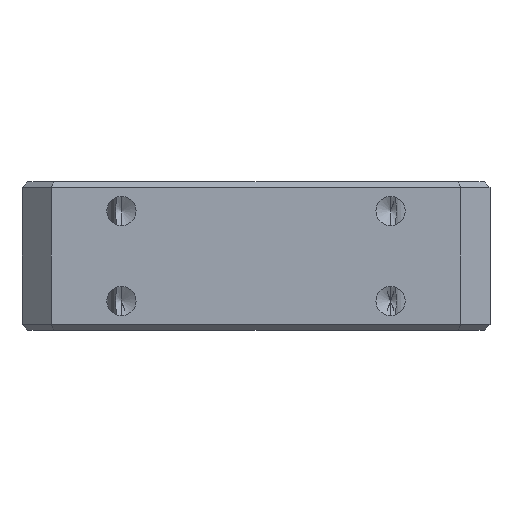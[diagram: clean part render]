
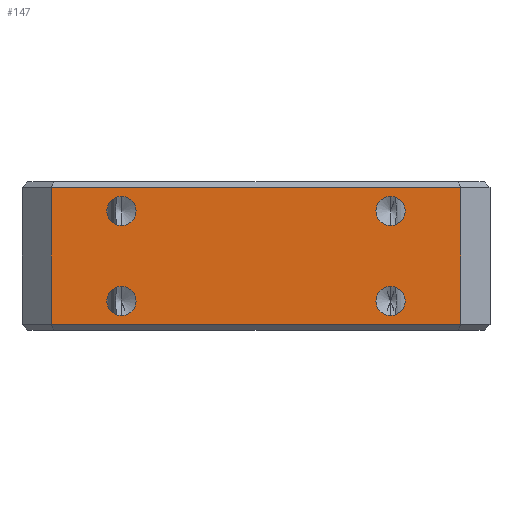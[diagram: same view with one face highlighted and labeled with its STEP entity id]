
A CAD part, left-side view. The second image highlights one B-rep face of the part: STEP entity #147.
In plain terms, the highlighted planar face has unit normal (-1, 0, 0).
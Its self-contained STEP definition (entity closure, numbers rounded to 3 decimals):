
#12 = VERTEX_POINT ( 'NONE', #664 ) ;
#19 = PLANE ( 'NONE',  #3012 ) ;
#31 = ORIENTED_EDGE ( 'NONE', *, *, #1681, .T. ) ;
#39 = AXIS2_PLACEMENT_3D ( 'NONE', #2137, #972, #2451 ) ;
#74 = ORIENTED_EDGE ( 'NONE', *, *, #797, .F. ) ;
#83 = CIRCLE ( 'NONE', #208, 1.25 ) ;
#85 = CARTESIAN_POINT ( 'NONE',  ( -20., -11.5, 10.2 ) ) ;
#96 = DIRECTION ( 'NONE',  ( -1., 0., 0. ) ) ;
#110 = CARTESIAN_POINT ( 'NONE',  ( -20., -17.5, 0.5 ) ) ;
#116 = CIRCLE ( 'NONE', #280, 1.25 ) ;
#127 = CIRCLE ( 'NONE', #39, 1.25 ) ;
#147 = ADVANCED_FACE ( 'NONE', ( #2924, #738, #499, #1230, #2208 ), #19, .F. ) ;
#152 = CARTESIAN_POINT ( 'NONE',  ( -20., 11.5, 10.2 ) ) ;
#167 = VERTEX_POINT ( 'NONE', #2750 ) ;
#180 = ORIENTED_EDGE ( 'NONE', *, *, #362, .F. ) ;
#208 = AXIS2_PLACEMENT_3D ( 'NONE', #152, #96, #1568 ) ;
#245 = CARTESIAN_POINT ( 'NONE',  ( -20., -17.5, 12.7 ) ) ;
#261 = LINE ( 'NONE', #2913, #890 ) ;
#265 = VECTOR ( 'NONE', #1158, 1000. ) ;
#280 = AXIS2_PLACEMENT_3D ( 'NONE', #2861, #665, #2623 ) ;
#308 = CARTESIAN_POINT ( 'NONE',  ( -20., 11.5, 8.95 ) ) ;
#344 = LINE ( 'NONE', #855, #1750 ) ;
#346 = EDGE_CURVE ( 'NONE', #167, #682, #522, .T. ) ;
#362 = EDGE_CURVE ( 'NONE', #682, #167, #2558, .T. ) ;
#443 = CARTESIAN_POINT ( 'NONE',  ( -20., 11.5, 2.5 ) ) ;
#459 = DIRECTION ( 'NONE',  ( -1., 0., 0. ) ) ;
#479 = EDGE_LOOP ( 'NONE', ( #1784, #2152 ) ) ;
#493 = EDGE_CURVE ( 'NONE', #628, #2033, #2515, .T. ) ;
#499 = FACE_BOUND ( 'NONE', #1012, .T. ) ;
#522 = CIRCLE ( 'NONE', #2086, 1.25 ) ;
#524 = EDGE_LOOP ( 'NONE', ( #773, #31, #2218, #2162 ) ) ;
#530 = CIRCLE ( 'NONE', #1355, 1.25 ) ;
#619 = EDGE_CURVE ( 'NONE', #1838, #748, #261, .T. ) ;
#628 = VERTEX_POINT ( 'NONE', #1458 ) ;
#655 = ORIENTED_EDGE ( 'NONE', *, *, #346, .F. ) ;
#664 = CARTESIAN_POINT ( 'NONE',  ( -20., 11.5, 11.45 ) ) ;
#665 = DIRECTION ( 'NONE',  ( -1., 0., 0. ) ) ;
#669 = AXIS2_PLACEMENT_3D ( 'NONE', #85, #2712, #2269 ) ;
#682 = VERTEX_POINT ( 'NONE', #2219 ) ;
#708 = DIRECTION ( 'NONE',  ( 0., 0., 1. ) ) ;
#738 = FACE_BOUND ( 'NONE', #2002, .T. ) ;
#748 = VERTEX_POINT ( 'NONE', #110 ) ;
#753 = DIRECTION ( 'NONE',  ( 0., 1., 0. ) ) ;
#773 = ORIENTED_EDGE ( 'NONE', *, *, #2358, .F. ) ;
#797 = EDGE_CURVE ( 'NONE', #2016, #12, #83, .T. ) ;
#855 = CARTESIAN_POINT ( 'NONE',  ( -20., -17.5, 12.2 ) ) ;
#859 = DIRECTION ( 'NONE',  ( -1., 0., 0. ) ) ;
#890 = VECTOR ( 'NONE', #2679, 1000. ) ;
#919 = CARTESIAN_POINT ( 'NONE',  ( -20., -11.5, 2.5 ) ) ;
#952 = CARTESIAN_POINT ( 'NONE',  ( -20., 17.5, 12.7 ) ) ;
#972 = DIRECTION ( 'NONE',  ( -1., 0., 0. ) ) ;
#980 = CIRCLE ( 'NONE', #669, 1.25 ) ;
#1012 = EDGE_LOOP ( 'NONE', ( #180, #655 ) ) ;
#1150 = CARTESIAN_POINT ( 'NONE',  ( -20., -11.5, 10.2 ) ) ;
#1158 = DIRECTION ( 'NONE',  ( 0., 0., -1. ) ) ;
#1160 = VERTEX_POINT ( 'NONE', #1335 ) ;
#1187 = VECTOR ( 'NONE', #2454, 1000. ) ;
#1219 = VERTEX_POINT ( 'NONE', #2397 ) ;
#1230 = FACE_BOUND ( 'NONE', #479, .T. ) ;
#1335 = CARTESIAN_POINT ( 'NONE',  ( -20., -17.5, 12.2 ) ) ;
#1355 = AXIS2_PLACEMENT_3D ( 'NONE', #919, #859, #1366 ) ;
#1358 = EDGE_CURVE ( 'NONE', #12, #2016, #127, .T. ) ;
#1366 = DIRECTION ( 'NONE',  ( 0., 0., 1. ) ) ;
#1434 = AXIS2_PLACEMENT_3D ( 'NONE', #1150, #2124, #708 ) ;
#1458 = CARTESIAN_POINT ( 'NONE',  ( -20., -11.5, 11.45 ) ) ;
#1544 = CARTESIAN_POINT ( 'NONE',  ( -20., -11.5, 8.95 ) ) ;
#1568 = DIRECTION ( 'NONE',  ( 0., 0., 1. ) ) ;
#1622 = DIRECTION ( 'NONE',  ( 0., 1., 0. ) ) ;
#1681 = EDGE_CURVE ( 'NONE', #1160, #1219, #344, .T. ) ;
#1741 = EDGE_CURVE ( 'NONE', #1219, #1838, #2651, .T. ) ;
#1750 = VECTOR ( 'NONE', #1622, 1000. ) ;
#1784 = ORIENTED_EDGE ( 'NONE', *, *, #2699, .F. ) ;
#1838 = VERTEX_POINT ( 'NONE', #3106 ) ;
#1965 = CARTESIAN_POINT ( 'NONE',  ( -20., -17.5, 12.7 ) ) ;
#2002 = EDGE_LOOP ( 'NONE', ( #3079, #2271 ) ) ;
#2005 = CARTESIAN_POINT ( 'NONE',  ( -20., -11.5, 3.75 ) ) ;
#2006 = VERTEX_POINT ( 'NONE', #2005 ) ;
#2016 = VERTEX_POINT ( 'NONE', #308 ) ;
#2020 = EDGE_CURVE ( 'NONE', #2033, #628, #980, .T. ) ;
#2033 = VERTEX_POINT ( 'NONE', #1544 ) ;
#2086 = AXIS2_PLACEMENT_3D ( 'NONE', #443, #2840, #2098 ) ;
#2098 = DIRECTION ( 'NONE',  ( 0., 0., 1. ) ) ;
#2124 = DIRECTION ( 'NONE',  ( -1., 0., 0. ) ) ;
#2137 = CARTESIAN_POINT ( 'NONE',  ( -20., 11.5, 10.2 ) ) ;
#2152 = ORIENTED_EDGE ( 'NONE', *, *, #2827, .F. ) ;
#2162 = ORIENTED_EDGE ( 'NONE', *, *, #619, .T. ) ;
#2185 = EDGE_LOOP ( 'NONE', ( #2812, #74 ) ) ;
#2208 = FACE_OUTER_BOUND ( 'NONE', #524, .T. ) ;
#2218 = ORIENTED_EDGE ( 'NONE', *, *, #1741, .T. ) ;
#2219 = CARTESIAN_POINT ( 'NONE',  ( -20., 11.5, 3.75 ) ) ;
#2269 = DIRECTION ( 'NONE',  ( 0., 0., 1. ) ) ;
#2271 = ORIENTED_EDGE ( 'NONE', *, *, #2020, .F. ) ;
#2358 = EDGE_CURVE ( 'NONE', #1160, #748, #2678, .T. ) ;
#2393 = DIRECTION ( 'NONE',  ( 0., 0., 1. ) ) ;
#2397 = CARTESIAN_POINT ( 'NONE',  ( -20., 17.5, 12.2 ) ) ;
#2451 = DIRECTION ( 'NONE',  ( 0., 0., 1. ) ) ;
#2454 = DIRECTION ( 'NONE',  ( 0., 0., -1. ) ) ;
#2515 = CIRCLE ( 'NONE', #1434, 1.25 ) ;
#2558 = CIRCLE ( 'NONE', #2605, 1.25 ) ;
#2605 = AXIS2_PLACEMENT_3D ( 'NONE', #3073, #459, #2393 ) ;
#2623 = DIRECTION ( 'NONE',  ( 0., 0., 1. ) ) ;
#2651 = LINE ( 'NONE', #952, #265 ) ;
#2678 = LINE ( 'NONE', #245, #1187 ) ;
#2679 = DIRECTION ( 'NONE',  ( 0., -1., 0. ) ) ;
#2685 = VERTEX_POINT ( 'NONE', #3110 ) ;
#2699 = EDGE_CURVE ( 'NONE', #2006, #2685, #530, .T. ) ;
#2712 = DIRECTION ( 'NONE',  ( -1., 0., 0. ) ) ;
#2750 = CARTESIAN_POINT ( 'NONE',  ( -20., 11.5, 1.25 ) ) ;
#2812 = ORIENTED_EDGE ( 'NONE', *, *, #1358, .F. ) ;
#2827 = EDGE_CURVE ( 'NONE', #2685, #2006, #116, .T. ) ;
#2840 = DIRECTION ( 'NONE',  ( -1., 0., 0. ) ) ;
#2861 = CARTESIAN_POINT ( 'NONE',  ( -20., -11.5, 2.5 ) ) ;
#2913 = CARTESIAN_POINT ( 'NONE',  ( -20., -17.5, 0.5 ) ) ;
#2924 = FACE_BOUND ( 'NONE', #2185, .T. ) ;
#2940 = DIRECTION ( 'NONE',  ( 1., 0., 0. ) ) ;
#3012 = AXIS2_PLACEMENT_3D ( 'NONE', #1965, #2940, #753 ) ;
#3073 = CARTESIAN_POINT ( 'NONE',  ( -20., 11.5, 2.5 ) ) ;
#3079 = ORIENTED_EDGE ( 'NONE', *, *, #493, .F. ) ;
#3106 = CARTESIAN_POINT ( 'NONE',  ( -20., 17.5, 0.5 ) ) ;
#3110 = CARTESIAN_POINT ( 'NONE',  ( -20., -11.5, 1.25 ) ) ;
